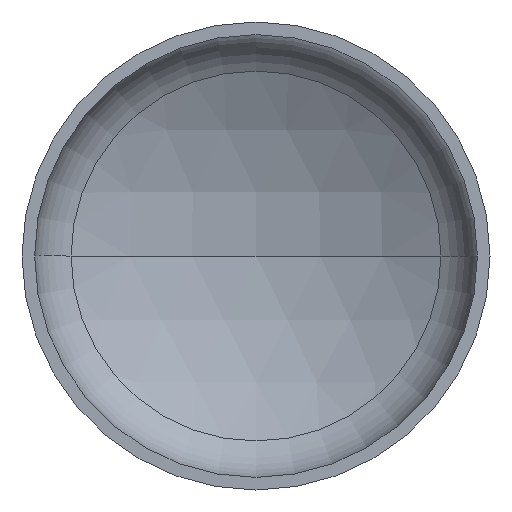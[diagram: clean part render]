
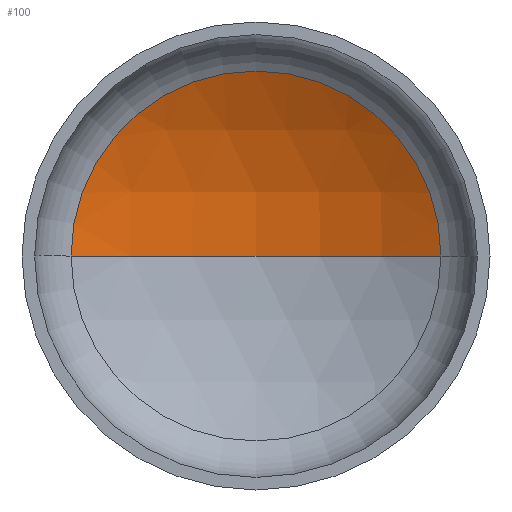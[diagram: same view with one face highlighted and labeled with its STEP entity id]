
A CAD part, front view. The second image highlights one B-rep face of the part: STEP entity #100.
In plain terms, the highlighted spherical face has radius 3200 mm.
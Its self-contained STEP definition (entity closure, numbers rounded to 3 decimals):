
#19 = EDGE_LOOP ( 'NONE', ( #86, #136, #121 ) ) ;
#32 = VERTEX_POINT ( 'NONE', #257 ) ;
#34 = DIRECTION ( 'NONE',  ( 1., 0., 0. ) ) ;
#44 = DIRECTION ( 'NONE',  ( 0., 0., 1. ) ) ;
#46 = CARTESIAN_POINT ( 'NONE',  ( 0., -2172.553, 0. ) ) ;
#47 = AXIS2_PLACEMENT_3D ( 'NONE', #46, #44, #34 ) ;
#49 = AXIS2_PLACEMENT_3D ( 'NONE', #285, #283, #270 ) ;
#55 = AXIS2_PLACEMENT_3D ( 'NONE', #226, #228, #263 ) ;
#76 = AXIS2_PLACEMENT_3D ( 'NONE', #255, #248, #221 ) ;
#85 = VERTEX_POINT ( 'NONE', #299 ) ;
#86 = ORIENTED_EDGE ( 'NONE', *, *, #212, .F. ) ;
#100 = ADVANCED_FACE ( 'NONE', ( #216 ), #387, .F. ) ;
#121 = ORIENTED_EDGE ( 'NONE', *, *, #192, .T. ) ;
#130 = VERTEX_POINT ( 'NONE', #376 ) ;
#136 = ORIENTED_EDGE ( 'NONE', *, *, #202, .T. ) ;
#183 = CIRCLE ( 'NONE', #47, 3200. ) ;
#189 = CIRCLE ( 'NONE', #49, 3200. ) ;
#192 = EDGE_CURVE ( 'NONE', #32, #85, #373, .T. ) ;
#202 = EDGE_CURVE ( 'NONE', #130, #32, #189, .T. ) ;
#212 = EDGE_CURVE ( 'NONE', #130, #85, #183, .T. ) ;
#216 = FACE_OUTER_BOUND ( 'NONE', #19, .T. ) ;
#221 = DIRECTION ( 'NONE',  ( -1., 0., 0. ) ) ;
#226 = CARTESIAN_POINT ( 'NONE',  ( 0., 609.718, 0. ) ) ;
#228 = DIRECTION ( 'NONE',  ( 0., -1., 0. ) ) ;
#248 = DIRECTION ( 'NONE',  ( 0., 0., -1. ) ) ;
#255 = CARTESIAN_POINT ( 'NONE',  ( 0., -2172.553, 0. ) ) ;
#257 = CARTESIAN_POINT ( 'NONE',  ( 1580.812, 609.718, 0. ) ) ;
#263 = DIRECTION ( 'NONE',  ( 1., 0., 0. ) ) ;
#270 = DIRECTION ( 'NONE',  ( -1., 0., 0. ) ) ;
#283 = DIRECTION ( 'NONE',  ( 0., 0., -1. ) ) ;
#285 = CARTESIAN_POINT ( 'NONE',  ( 0., -2172.553, 0. ) ) ;
#299 = CARTESIAN_POINT ( 'NONE',  ( -1580.812, 609.718, 0. ) ) ;
#373 = CIRCLE ( 'NONE', #55, 1580.812 ) ;
#376 = CARTESIAN_POINT ( 'NONE',  ( 0., 1027.447, 0. ) ) ;
#387 = SPHERICAL_SURFACE ( 'NONE', #76, 3200. ) ;
